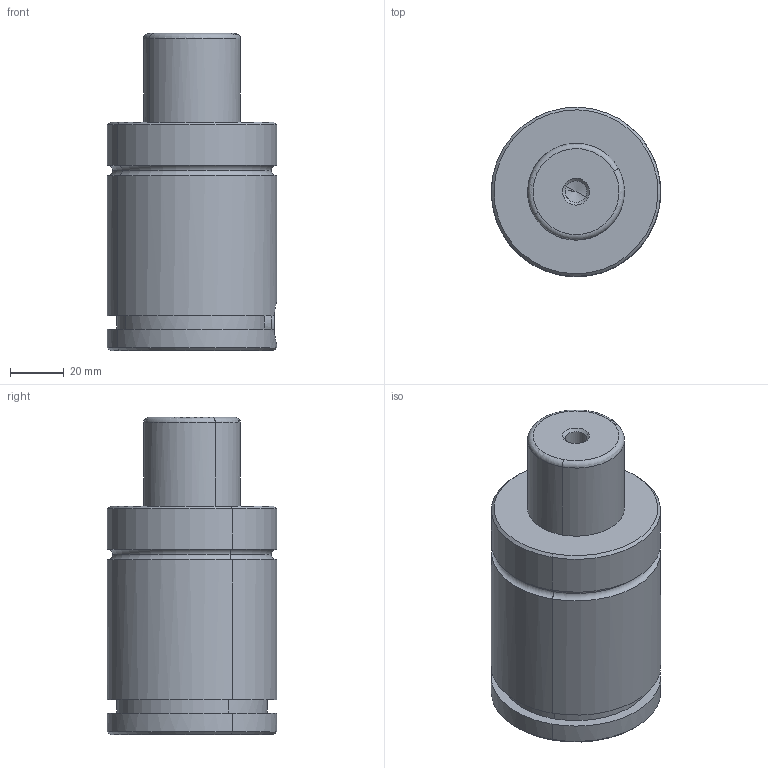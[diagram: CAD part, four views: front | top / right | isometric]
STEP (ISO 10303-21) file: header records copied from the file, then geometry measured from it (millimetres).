
FILE_DESCRIPTION(('FreeCAD Model'),'2;1');
FILE_NAME('Open CASCADE Shape Model','2024-11-12T11:52:13',('Author'),( ''),'Open CASCADE STEP processor 7.6','FreeCAD','Unknown');
FILE_SCHEMA(('AUTOMOTIVE_DESIGN { 1 0 10303 214 1 1 1 1 }'));
Length unit declared in the file: millimetre
Products named in the file (1): Cut
Bounding box: 63 x 62.98 x 118 mm (x, y, z)
Volume: 289834.8 mm3; surface area: 32764.4 mm2
Topology: 3 solids, 3 shells, 109 faces, 232 edges, 132 vertices
Faces by surface type: cone 48, cylinder 31, plane 22, torus 8
Full cylindrical faces by diameter (mm): 8 x4
Entity records: 3527 total; most frequent: CARTESIAN_POINT 1241, DIRECTION 470, ORIENTED_EDGE 448, EDGE_CURVE 224, AXIS2_PLACEMENT_3D 188, VERTEX_POINT 132, FACE_BOUND 120, EDGE_LOOP 120
